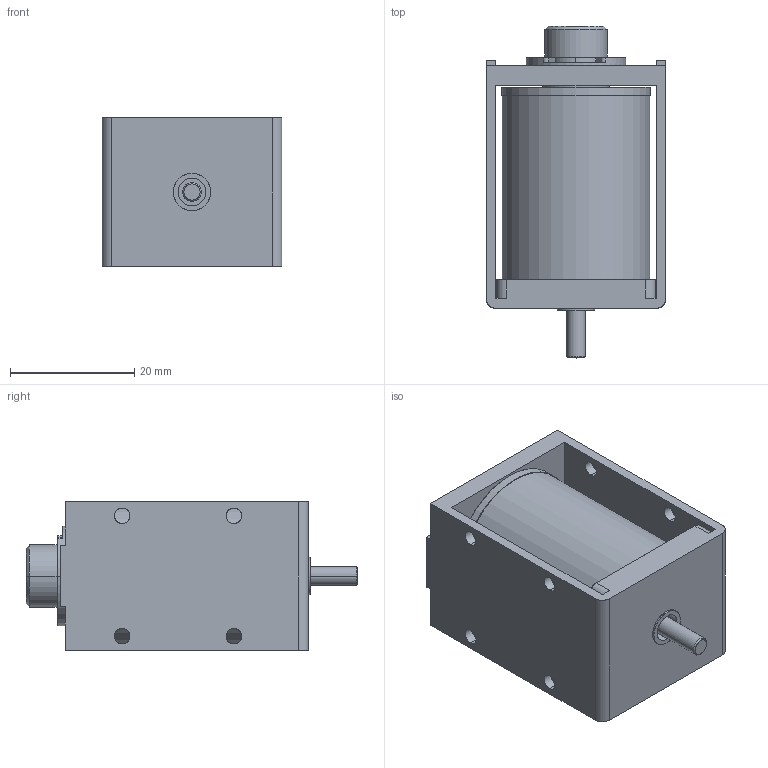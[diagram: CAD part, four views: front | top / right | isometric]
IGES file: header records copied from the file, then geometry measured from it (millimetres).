
Start section: SolidWorks IGES file using analytic representation for surfaces
Global section: file name: L:\カタログ\web用3Dデータ\CB1040\3D_CB1040\w_cb1040.IGS; native system: SolidWorks 2014; preprocessor: SolidWorks 2014; author: jiba; date: 140722.114445; units: millimetre
Bounding box: 29 x 53.5 x 24 mm (x, y, z)
Surface area: 14349 mm2 (no closed solid volume)
Topology: 0 solids, 0 shells, 125 faces, 2244 edges, 2244 vertices
Faces by surface type: revolution 77, bspline 48
